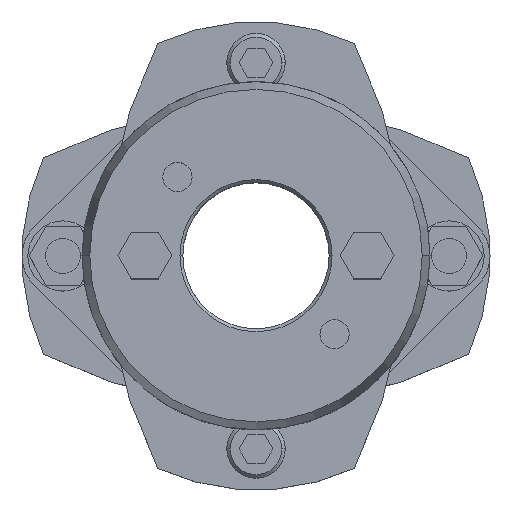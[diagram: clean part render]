
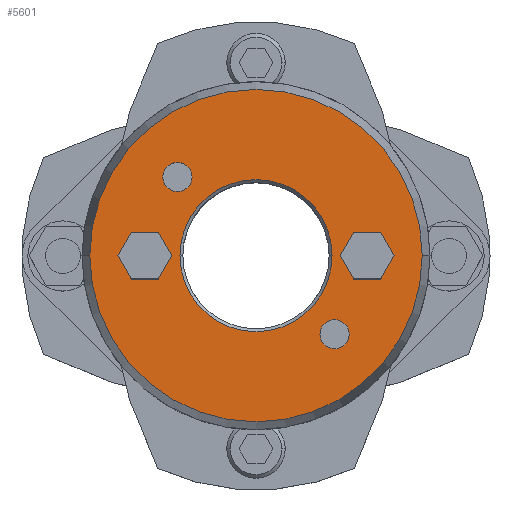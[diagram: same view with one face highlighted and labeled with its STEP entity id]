
A CAD part, top view. The second image highlights one B-rep face of the part: STEP entity #5601.
In plain terms, the highlighted planar face has unit normal (0, 0, 1).
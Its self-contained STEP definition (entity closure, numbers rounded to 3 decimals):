
#857=CARTESIAN_POINT('',(-13.,0.,35.875));
#858=VERTEX_POINT('',#857);
#874=CARTESIAN_POINT('',(13.,0.,35.875));
#875=VERTEX_POINT('',#874);
#882=CARTESIAN_POINT('',(0.,0.,35.875));
#883=DIRECTION('',(0.0,0.0,1.0));
#884=DIRECTION('',(-1.0,0.0,0.0));
#885=AXIS2_PLACEMENT_3D('',#882,#883,#884);
#886=CIRCLE('',#885,13.0);
#887=EDGE_CURVE('',#875,#858,#886,.T.);
#1003=CARTESIAN_POINT('',(28.41,0.,35.875));
#1004=VERTEX_POINT('',#1003);
#1013=CARTESIAN_POINT('',(-28.41,0.,35.875));
#1014=VERTEX_POINT('',#1013);
#1015=CARTESIAN_POINT('',(0.,0.,35.875));
#1016=DIRECTION('',(0.0,0.0,-1.0));
#1017=DIRECTION('',(1.0,0.0,0.0));
#1018=AXIS2_PLACEMENT_3D('',#1015,#1016,#1017);
#1019=CIRCLE('',#1018,28.41);
#1020=EDGE_CURVE('',#1004,#1014,#1019,.T.);
#1189=CARTESIAN_POINT('',(-15.935,13.435,35.875));
#1190=VERTEX_POINT('',#1189);
#1206=CARTESIAN_POINT('',(-10.935,13.435,35.875));
#1207=VERTEX_POINT('',#1206);
#1214=CARTESIAN_POINT('',(-13.435,13.435,35.875));
#1215=DIRECTION('',(0.0,0.0,-1.0));
#1216=DIRECTION('',(-1.0,0.0,0.0));
#1217=AXIS2_PLACEMENT_3D('',#1214,#1215,#1216);
#1218=CIRCLE('',#1217,2.5);
#1219=EDGE_CURVE('',#1190,#1207,#1218,.T.);
#1231=CARTESIAN_POINT('',(10.935,-13.435,35.875));
#1232=VERTEX_POINT('',#1231);
#1248=CARTESIAN_POINT('',(15.935,-13.435,35.875));
#1249=VERTEX_POINT('',#1248);
#1256=CARTESIAN_POINT('',(13.435,-13.435,35.875));
#1257=DIRECTION('',(0.0,0.0,-1.0));
#1258=DIRECTION('',(-1.0,0.0,0.0));
#1259=AXIS2_PLACEMENT_3D('',#1256,#1257,#1258);
#1260=CIRCLE('',#1259,2.5);
#1261=EDGE_CURVE('',#1232,#1249,#1260,.T.);
#4727=CARTESIAN_POINT('',(14.381,0.,35.875));
#4728=VERTEX_POINT('',#4727);
#4735=CARTESIAN_POINT('',(16.691,-4.,35.875));
#4736=VERTEX_POINT('',#4735);
#4737=CARTESIAN_POINT('',(16.691,-4.,35.875));
#4738=DIRECTION('',(-0.5,0.866,0.0));
#4739=VECTOR('',#4738,4.619);
#4740=LINE('',#4737,#4739);
#4741=EDGE_CURVE('',#4736,#4728,#4740,.T.);
#4765=CARTESIAN_POINT('',(16.691,4.,35.875));
#4766=VERTEX_POINT('',#4765);
#4773=CARTESIAN_POINT('',(14.381,0.,35.875));
#4774=DIRECTION('',(0.5,0.866,0.0));
#4775=VECTOR('',#4774,4.619);
#4776=LINE('',#4773,#4775);
#4777=EDGE_CURVE('',#4728,#4766,#4776,.T.);
#4796=CARTESIAN_POINT('',(21.309,4.,35.875));
#4797=VERTEX_POINT('',#4796);
#4804=CARTESIAN_POINT('',(16.691,4.,35.875));
#4805=DIRECTION('',(1.0,0.0,0.0));
#4806=VECTOR('',#4805,4.619);
#4807=LINE('',#4804,#4806);
#4808=EDGE_CURVE('',#4766,#4797,#4807,.T.);
#4827=CARTESIAN_POINT('',(23.619,0.,35.875));
#4828=VERTEX_POINT('',#4827);
#4835=CARTESIAN_POINT('',(21.309,4.,35.875));
#4836=DIRECTION('',(0.5,-0.866,0.0));
#4837=VECTOR('',#4836,4.619);
#4838=LINE('',#4835,#4837);
#4839=EDGE_CURVE('',#4797,#4828,#4838,.T.);
#4858=CARTESIAN_POINT('',(21.309,-4.,35.875));
#4859=VERTEX_POINT('',#4858);
#4866=CARTESIAN_POINT('',(23.619,0.,35.875));
#4867=DIRECTION('',(-0.5,-0.866,0.0));
#4868=VECTOR('',#4867,4.619);
#4869=LINE('',#4866,#4868);
#4870=EDGE_CURVE('',#4828,#4859,#4869,.T.);
#4888=CARTESIAN_POINT('',(21.309,-4.,35.875));
#4889=DIRECTION('',(-1.0,0.0,0.0));
#4890=VECTOR('',#4889,4.619);
#4891=LINE('',#4888,#4890);
#4892=EDGE_CURVE('',#4859,#4736,#4891,.T.);
#4927=CARTESIAN_POINT('',(-23.619,0.,35.875));
#4928=VERTEX_POINT('',#4927);
#4935=CARTESIAN_POINT('',(-21.309,-4.,35.875));
#4936=VERTEX_POINT('',#4935);
#4937=CARTESIAN_POINT('',(-21.309,-4.,35.875));
#4938=DIRECTION('',(-0.5,0.866,0.0));
#4939=VECTOR('',#4938,4.619);
#4940=LINE('',#4937,#4939);
#4941=EDGE_CURVE('',#4936,#4928,#4940,.T.);
#4965=CARTESIAN_POINT('',(-21.309,4.,35.875));
#4966=VERTEX_POINT('',#4965);
#4973=CARTESIAN_POINT('',(-23.619,0.,35.875));
#4974=DIRECTION('',(0.5,0.866,0.0));
#4975=VECTOR('',#4974,4.619);
#4976=LINE('',#4973,#4975);
#4977=EDGE_CURVE('',#4928,#4966,#4976,.T.);
#4996=CARTESIAN_POINT('',(-16.691,4.,35.875));
#4997=VERTEX_POINT('',#4996);
#5004=CARTESIAN_POINT('',(-21.309,4.,35.875));
#5005=DIRECTION('',(1.0,0.0,0.0));
#5006=VECTOR('',#5005,4.619);
#5007=LINE('',#5004,#5006);
#5008=EDGE_CURVE('',#4966,#4997,#5007,.T.);
#5027=CARTESIAN_POINT('',(-14.381,0.,35.875));
#5028=VERTEX_POINT('',#5027);
#5035=CARTESIAN_POINT('',(-16.691,4.,35.875));
#5036=DIRECTION('',(0.5,-0.866,0.0));
#5037=VECTOR('',#5036,4.619);
#5038=LINE('',#5035,#5037);
#5039=EDGE_CURVE('',#4997,#5028,#5038,.T.);
#5058=CARTESIAN_POINT('',(-16.691,-4.,35.875));
#5059=VERTEX_POINT('',#5058);
#5066=CARTESIAN_POINT('',(-14.381,0.,35.875));
#5067=DIRECTION('',(-0.5,-0.866,0.0));
#5068=VECTOR('',#5067,4.619);
#5069=LINE('',#5066,#5068);
#5070=EDGE_CURVE('',#5028,#5059,#5069,.T.);
#5088=CARTESIAN_POINT('',(-16.691,-4.,35.875));
#5089=DIRECTION('',(-1.0,0.0,0.0));
#5090=VECTOR('',#5089,4.619);
#5091=LINE('',#5088,#5090);
#5092=EDGE_CURVE('',#5059,#4936,#5091,.T.);
#5118=CARTESIAN_POINT('',(13.435,-13.435,35.875));
#5119=DIRECTION('',(0.0,0.0,-1.0));
#5120=DIRECTION('',(-1.0,0.0,0.0));
#5121=AXIS2_PLACEMENT_3D('',#5118,#5119,#5120);
#5122=CIRCLE('',#5121,2.5);
#5123=EDGE_CURVE('',#1249,#1232,#5122,.T.);
#5152=CARTESIAN_POINT('',(-13.435,13.435,35.875));
#5153=DIRECTION('',(0.0,0.0,-1.0));
#5154=DIRECTION('',(-1.0,0.0,0.0));
#5155=AXIS2_PLACEMENT_3D('',#5152,#5153,#5154);
#5156=CIRCLE('',#5155,2.5);
#5157=EDGE_CURVE('',#1207,#1190,#5156,.T.);
#5548=CARTESIAN_POINT('',(0.,0.,35.875));
#5549=DIRECTION('',(0.0,0.0,-1.0));
#5550=DIRECTION('',(1.0,0.0,0.0));
#5551=AXIS2_PLACEMENT_3D('',#5548,#5549,#5550);
#5552=CIRCLE('',#5551,28.41);
#5553=EDGE_CURVE('',#1014,#1004,#5552,.T.);
#5558=CARTESIAN_POINT('',(-2.364,0.,35.875));
#5559=DIRECTION('',(0.0,0.0,1.0));
#5560=DIRECTION('',(-1.0,0.0,0.0));
#5561=AXIS2_PLACEMENT_3D('',#5558,#5559,#5560);
#5562=PLANE('',#5561);
#5563=ORIENTED_EDGE('',*,*,#5553,.F.);
#5564=ORIENTED_EDGE('',*,*,#1020,.F.);
#5565=EDGE_LOOP('',(#5563,#5564));
#5566=FACE_OUTER_BOUND('',#5565,.T.);
#5567=ORIENTED_EDGE('',*,*,#4741,.T.);
#5568=ORIENTED_EDGE('',*,*,#4777,.T.);
#5569=ORIENTED_EDGE('',*,*,#4808,.T.);
#5570=ORIENTED_EDGE('',*,*,#4839,.T.);
#5571=ORIENTED_EDGE('',*,*,#4870,.T.);
#5572=ORIENTED_EDGE('',*,*,#4892,.T.);
#5573=EDGE_LOOP('',(#5567,#5568,#5569,#5570,#5571,#5572));
#5574=FACE_BOUND('',#5573,.T.);
#5575=ORIENTED_EDGE('',*,*,#4941,.T.);
#5576=ORIENTED_EDGE('',*,*,#4977,.T.);
#5577=ORIENTED_EDGE('',*,*,#5008,.T.);
#5578=ORIENTED_EDGE('',*,*,#5039,.T.);
#5579=ORIENTED_EDGE('',*,*,#5070,.T.);
#5580=ORIENTED_EDGE('',*,*,#5092,.T.);
#5581=EDGE_LOOP('',(#5575,#5576,#5577,#5578,#5579,#5580));
#5582=FACE_BOUND('',#5581,.T.);
#5583=ORIENTED_EDGE('',*,*,#1261,.T.);
#5584=ORIENTED_EDGE('',*,*,#5123,.T.);
#5585=EDGE_LOOP('',(#5583,#5584));
#5586=FACE_BOUND('',#5585,.T.);
#5587=ORIENTED_EDGE('',*,*,#1219,.T.);
#5588=ORIENTED_EDGE('',*,*,#5157,.T.);
#5589=EDGE_LOOP('',(#5587,#5588));
#5590=FACE_BOUND('',#5589,.T.);
#5591=ORIENTED_EDGE('',*,*,#887,.F.);
#5592=CARTESIAN_POINT('',(0.,0.,35.875));
#5593=DIRECTION('',(0.0,0.0,1.0));
#5594=DIRECTION('',(-1.0,0.0,0.0));
#5595=AXIS2_PLACEMENT_3D('',#5592,#5593,#5594);
#5596=CIRCLE('',#5595,13.0);
#5597=EDGE_CURVE('',#858,#875,#5596,.T.);
#5598=ORIENTED_EDGE('',*,*,#5597,.F.);
#5599=EDGE_LOOP('',(#5591,#5598));
#5600=FACE_BOUND('',#5599,.T.);
#5601=ADVANCED_FACE('',(#5566,#5574,#5582,#5586,#5590,#5600),#5562,.T.);
